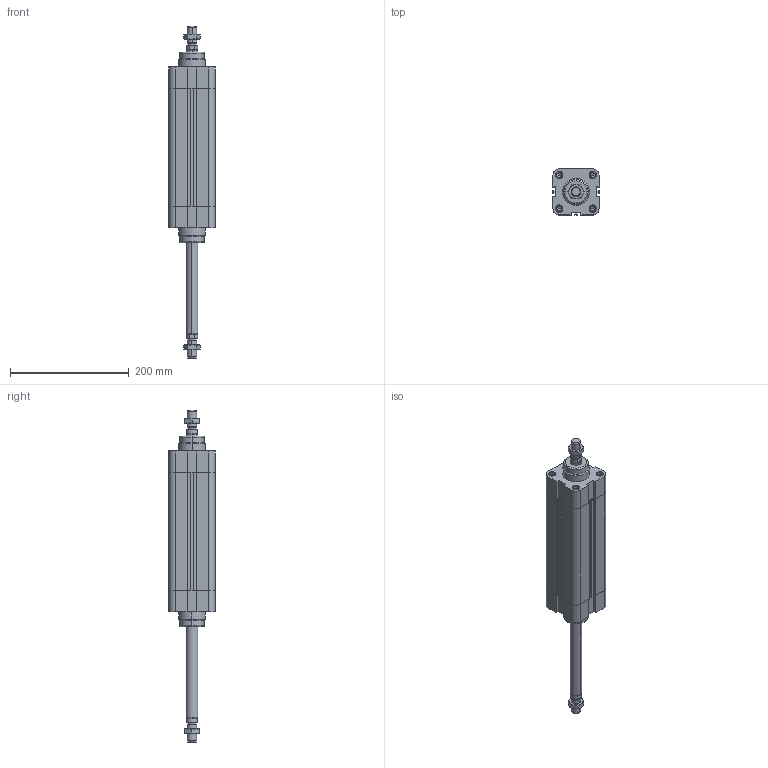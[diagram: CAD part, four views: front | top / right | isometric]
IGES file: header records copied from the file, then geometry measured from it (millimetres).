
Global section: file name: No Iges File Name specified; native system: Autodesk Inventor 2010; preprocessor: AutoDesk Inventor Iges Exporter R2010; author: rivolro1; date: 20090707.105800; units: millimetre
Bounding box: 77.5 x 77.5 x 559 mm (x, y, z)
Volume: 1263386.5 mm3; surface area: 235094 mm2
Topology: 6 solids, 6 shells, 343 faces, 810 edges, 508 vertices
Faces by surface type: plane 137, bspline 86, cylinder 58, cone 38, revolution 20, torus 4
